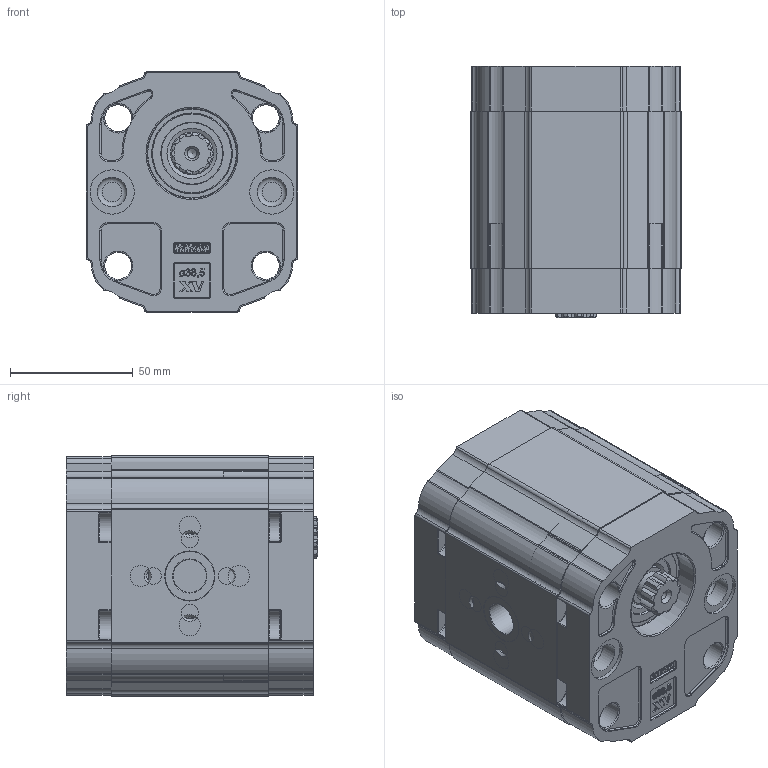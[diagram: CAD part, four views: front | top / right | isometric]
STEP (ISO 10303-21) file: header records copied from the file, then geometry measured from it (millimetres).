
FILE_DESCRIPTION( ( 'Unknown' ), '1' );
FILE_NAME( 'P:/montaggio_easy/output/STP/X2I4971PPOD.stp', 'Unknown', ( 'Unknown' ), ( 'Unknown' ), 'PSStep 14.0', 'Unknown', ' ' );
FILE_SCHEMA( ( 'AUTOMOTIVE_DESIGN { 1 0 10303 214 1 1 1 1 }' ) );
Length unit declared in the file: millimetre
Products named in the file (5): Assem1; X2I71; 2P; X2POH64; XI202-D
Bounding box: 86 x 102.2 x 98 mm (x, y, z)
Surface area: 204758.1 mm2
Topology: 8 solids, 10 shells, 2220 faces, 5870 edges, 3788 vertices
Faces by surface type: cylinder 788, plane 742, extrusion 316, torus 208, cone 102, bspline 64
Full cylindrical faces by diameter (mm): 4 x4, 4.917 x8, 6.647 x8, 11 x16, 11.5 x8, 12 x8, 12.5 x4, 13.5 x2, 17.42 x2, 18 x8, 20 x2, 23 x2, 25 x4, 32.5 x4, 36.5 x4
Entity records: 46420 total; most frequent: CARTESIAN_POINT 10707, ORIENTED_EDGE 5584, DIRECTION 5360, EDGE_CURVE 2792, AXIS2_PLACEMENT_3D 1909, VERTEX_POINT 1852, VECTOR 1542, LINE 1384
